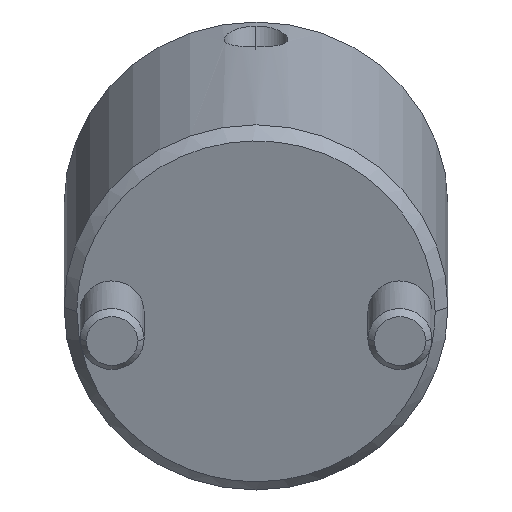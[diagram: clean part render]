
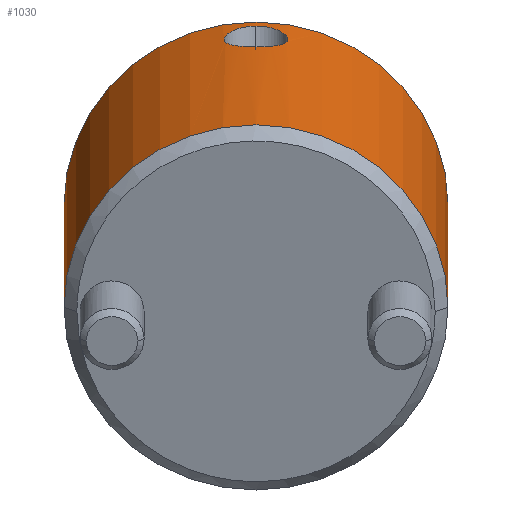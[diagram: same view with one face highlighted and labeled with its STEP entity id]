
A CAD part, front view. The second image highlights one B-rep face of the part: STEP entity #1030.
In plain terms, the highlighted cylindrical face has radius 15 mm (diameter 30 mm), a partial arc.
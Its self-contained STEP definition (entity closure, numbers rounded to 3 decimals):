
#787=CARTESIAN_POINT('Vertex',(0.,15.,1.)) ;
#790=CARTESIAN_POINT('Axis2P3D Location',(0.,0.,1.)) ;
#794=CARTESIAN_POINT('Vertex',(0.,-15.,1.)) ;
#934=CARTESIAN_POINT('Axis2P3D Location',(0.,0.,-1.4)) ;
#939=CARTESIAN_POINT('Line Origine',(0.,15.,-1.4)) ;
#943=CARTESIAN_POINT('Vertex',(0.,15.,27.)) ;
#946=CARTESIAN_POINT('Axis2P3D Location',(0.,0.,27.)) ;
#950=CARTESIAN_POINT('Vertex',(0.,-15.,27.)) ;
#953=CARTESIAN_POINT('Line Origine',(0.,-15.,-1.4)) ;
#965=CARTESIAN_POINT('Control Point',(15.,0.,25.963)) ;
#966=CARTESIAN_POINT('Control Point',(15.,0.072,25.963)) ;
#967=CARTESIAN_POINT('Control Point',(15.,0.144,25.96)) ;
#968=CARTESIAN_POINT('Control Point',(14.999,0.216,25.954)) ;
#969=CARTESIAN_POINT('Control Point',(14.995,0.433,25.928)) ;
#970=CARTESIAN_POINT('Control Point',(14.987,0.648,25.875)) ;
#971=CARTESIAN_POINT('Control Point',(14.98,0.796,25.826)) ;
#972=CARTESIAN_POINT('Control Point',(14.963,1.075,25.708)) ;
#973=CARTESIAN_POINT('Control Point',(14.942,1.329,25.549)) ;
#974=CARTESIAN_POINT('Control Point',(14.93,1.455,25.457)) ;
#975=CARTESIAN_POINT('Control Point',(14.893,1.81,25.154)) ;
#976=CARTESIAN_POINT('Control Point',(14.854,2.099,24.769)) ;
#977=CARTESIAN_POINT('Control Point',(14.83,2.256,24.479)) ;
#978=CARTESIAN_POINT('Control Point',(14.802,2.428,24.014)) ;
#979=CARTESIAN_POINT('Control Point',(14.791,2.495,23.524)) ;
#980=CARTESIAN_POINT('Control Point',(14.789,2.505,23.361)) ;
#981=CARTESIAN_POINT('Control Point',(14.79,2.502,22.958)) ;
#982=CARTESIAN_POINT('Control Point',(14.803,2.425,22.566)) ;
#983=CARTESIAN_POINT('Control Point',(14.815,2.354,22.34)) ;
#984=CARTESIAN_POINT('Control Point',(14.84,2.194,21.981)) ;
#985=CARTESIAN_POINT('Control Point',(14.87,1.971,21.663)) ;
#986=CARTESIAN_POINT('Control Point',(14.883,1.872,21.543)) ;
#987=CARTESIAN_POINT('Control Point',(14.909,1.66,21.323)) ;
#988=CARTESIAN_POINT('Control Point',(14.934,1.417,21.138)) ;
#989=CARTESIAN_POINT('Control Point',(14.945,1.288,21.055)) ;
#990=CARTESIAN_POINT('Control Point',(14.971,0.971,20.883)) ;
#991=CARTESIAN_POINT('Control Point',(14.989,0.619,20.77)) ;
#992=CARTESIAN_POINT('Control Point',(14.996,0.412,20.725)) ;
#993=CARTESIAN_POINT('Control Point',(15.,0.206,20.705)) ;
#994=CARTESIAN_POINT('Control Point',(15.,0.,20.705)) ;
#995=CARTESIAN_POINT('Vertex',(15.,0.,25.963)) ;
#997=CARTESIAN_POINT('Vertex',(15.,0.,20.705)) ;
#1001=CARTESIAN_POINT('Control Point',(15.,0.,20.705)) ;
#1002=CARTESIAN_POINT('Control Point',(15.,-0.15,20.705)) ;
#1003=CARTESIAN_POINT('Control Point',(14.998,-0.3,20.716)) ;
#1004=CARTESIAN_POINT('Control Point',(14.994,-0.45,20.739)) ;
#1005=CARTESIAN_POINT('Control Point',(14.983,-0.751,20.809)) ;
#1006=CARTESIAN_POINT('Control Point',(14.965,-1.039,20.923)) ;
#1007=CARTESIAN_POINT('Control Point',(14.955,-1.174,20.99)) ;
#1008=CARTESIAN_POINT('Control Point',(14.91,-1.702,21.304)) ;
#1009=CARTESIAN_POINT('Control Point',(14.854,-2.12,21.77)) ;
#1010=CARTESIAN_POINT('Control Point',(14.816,-2.349,22.194)) ;
#1011=CARTESIAN_POINT('Control Point',(14.787,-2.518,22.82)) ;
#1012=CARTESIAN_POINT('Control Point',(14.79,-2.5,23.466)) ;
#1013=CARTESIAN_POINT('Control Point',(14.793,-2.483,23.63)) ;
#1014=CARTESIAN_POINT('Control Point',(14.805,-2.412,24.035)) ;
#1015=CARTESIAN_POINT('Control Point',(14.828,-2.269,24.42)) ;
#1016=CARTESIAN_POINT('Control Point',(14.845,-2.159,24.642)) ;
#1017=CARTESIAN_POINT('Control Point',(14.881,-1.898,25.047)) ;
#1018=CARTESIAN_POINT('Control Point',(14.92,-1.564,25.378)) ;
#1019=CARTESIAN_POINT('Control Point',(14.938,-1.379,25.525)) ;
#1020=CARTESIAN_POINT('Control Point',(14.969,-1.015,25.753)) ;
#1021=CARTESIAN_POINT('Control Point',(14.99,-0.599,25.895)) ;
#1022=CARTESIAN_POINT('Control Point',(14.997,-0.399,25.941)) ;
#1023=CARTESIAN_POINT('Control Point',(15.,-0.2,25.963)) ;
#1024=CARTESIAN_POINT('Control Point',(15.,0.,25.963)) ;
#791=DIRECTION('Axis2P3D Direction',(0.,0.,1.)) ;
#935=DIRECTION('Axis2P3D Direction',(0.,-0.,1.)) ;
#936=DIRECTION('Axis2P3D XDirection',(0.,-1.,0.)) ;
#940=DIRECTION('Vector Direction',(0.,0.,1.)) ;
#947=DIRECTION('Axis2P3D Direction',(0.,-0.,1.)) ;
#954=DIRECTION('Vector Direction',(0.,0.,1.)) ;
#792=AXIS2_PLACEMENT_3D('Circle Axis2P3D',#790,#791,$) ;
#937=AXIS2_PLACEMENT_3D('Cylinder Axis2P3D',#934,#935,#936) ;
#948=AXIS2_PLACEMENT_3D('Circle Axis2P3D',#946,#947,$) ;
#959=ORIENTED_EDGE('',*,*,#945,.F.) ;
#960=ORIENTED_EDGE('',*,*,#952,.T.) ;
#961=ORIENTED_EDGE('',*,*,#957,.T.) ;
#962=ORIENTED_EDGE('',*,*,#796,.F.) ;
#1027=ORIENTED_EDGE('',*,*,#999,.T.) ;
#1028=ORIENTED_EDGE('',*,*,#1025,.T.) ;
#1029=FACE_BOUND('',#1026,.T.) ;
#941=VECTOR('Line Direction',#940,1.) ;
#955=VECTOR('Line Direction',#954,1.) ;
#1030=ADVANCED_FACE('MANIFOLD_SOLID_BREP #1110',(#963,#1029),#938,.T.) ;
#964=B_SPLINE_CURVE_WITH_KNOTS('',5,(#965,#966,#967,#968,#969,#970,#971,#972,#973,#974,#975,#976,#977,#978,#979,#980,#981,#982,#983,#984,#985,#986,#987,#988,#989,#990,#991,#992,#993,#994),.UNSPECIFIED.,.F.,.U.,(6,3,3,3,3,3,3,3,3,6),(0.,0.524,1.591,2.694,4.954,6.072,7.732,8.831,9.918,11.413),.UNSPECIFIED.) ;
#1000=B_SPLINE_CURVE_WITH_KNOTS('',5,(#1001,#1002,#1003,#1004,#1005,#1006,#1007,#1008,#1009,#1010,#1011,#1012,#1013,#1014,#1015,#1016,#1017,#1018,#1019,#1020,#1021,#1022,#1023,#1024),.UNSPECIFIED.,.F.,.U.,(6,3,3,3,3,3,3,6),(0.,1.098,2.193,5.511,6.631,8.322,9.968,11.415),.UNSPECIFIED.) ;
#793=CIRCLE('generated circle',#792,15.) ;
#949=CIRCLE('generated circle',#948,15.) ;
#938=CYLINDRICAL_SURFACE('generated cylinder',#937,15.) ;
#796=EDGE_CURVE('',#788,#795,#793,.F.) ;
#945=EDGE_CURVE('',#944,#788,#942,.F.) ;
#952=EDGE_CURVE('',#944,#951,#949,.F.) ;
#957=EDGE_CURVE('',#951,#795,#956,.F.) ;
#999=EDGE_CURVE('',#996,#998,#964,.T.) ;
#1025=EDGE_CURVE('',#998,#996,#1000,.T.) ;
#958=EDGE_LOOP('',(#959,#960,#961,#962)) ;
#1026=EDGE_LOOP('',(#1027,#1028)) ;
#963=FACE_OUTER_BOUND('',#958,.T.) ;
#942=LINE('Line',#939,#941) ;
#956=LINE('Line',#953,#955) ;
#788=VERTEX_POINT('',#787) ;
#795=VERTEX_POINT('',#794) ;
#944=VERTEX_POINT('',#943) ;
#951=VERTEX_POINT('',#950) ;
#996=VERTEX_POINT('',#995) ;
#998=VERTEX_POINT('',#997) ;
